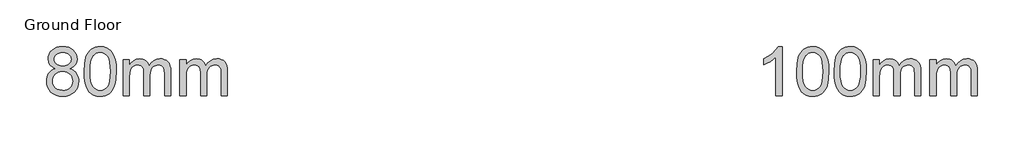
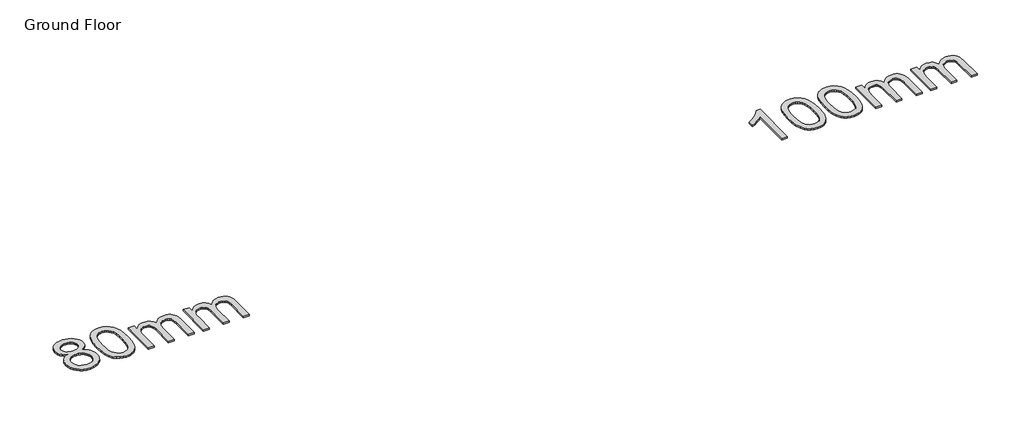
# One storey, part 12 of 14: 2 proxies.
"""IFC4 building model written with IfcOpenShell, lengths in millimetres."""

import ifcopenshell
import ifcopenshell.guid

model = None  # the IFC model being written
_history = None  # IfcOwnerHistory: only IFC2X3 demands one
_inside = {}  # id of a spatial element -> (the spatial element, [elements in it])
_under = {}  # id of a project, library or spatial element -> (it, [spatial elements below it])
_declared = {}  # id of a project -> (the project, [libraries it declares])
_typed = {}  # id of a type object -> (the type object, [elements of that type])
_made_of = {}  # id of a material, layer set ... -> (it, [elements and type objects made of it])


def new_model(schema):
    """Start an empty IFC model of exactly this schema.

    Asked for "IFC4X3", IfcOpenShell would pick the latest addendum, in which some entities
    have other attributes; the version numbers below select the first issue.
    IFC2X3 requires an IfcOwnerHistory on every rooted entity: one is made here for all.
    """
    global model, _history
    if schema == "IFC4X3":
        model = ifcopenshell.file(schema_version=(4, 3, 0, 0))
    else:
        model = ifcopenshell.file(schema=schema)
    _inside.clear()
    _under.clear()
    _declared.clear()
    _typed.clear()
    _made_of.clear()
    _history = None
    if model.schema == "IFC2X3":
        org = make("IfcOrganization", Name="unknown")
        user = make(
            "IfcPersonAndOrganization",
            ThePerson=make("IfcPerson", FamilyName="unknown"),
            TheOrganization=org,
        )
        app = make(
            "IfcApplication",
            ApplicationDeveloper=org,
            Version="unknown",
            ApplicationFullName="unknown",
            ApplicationIdentifier="unknown",
        )
        _history = make(
            "IfcOwnerHistory",
            OwningUser=user,
            OwningApplication=app,
            ChangeAction="ADDED",
            CreationDate=0,
        )
    return model


def make(cls, **values):
    """One entity of the class cls with the attributes given. An attribute that is None is left unset."""
    return model.create_entity(
        cls, **{name: value for name, value in values.items() if value is not None}
    )


def rooted(cls, **values):
    """An entity with a GlobalId (a new one), such as an element, a storey or a relation."""
    return make(cls, GlobalId=ifcopenshell.guid.new(), OwnerHistory=_history, **values)


def si_unit(unit_type, name, prefix=None):
    """IfcSIUnit, for example si_unit("LENGTHUNIT", "METRE", prefix="MILLI")."""
    return make("IfcSIUnit", UnitType=unit_type, Prefix=prefix, Name=name)


def assignment(units):
    """IfcUnitAssignment: the units of a project."""
    return None if units is None else make("IfcUnitAssignment", Units=units)


def point(xyz):
    """IfcCartesianPoint."""
    return None if xyz is None else make("IfcCartesianPoint", Coordinates=xyz)


def direction(xyz):
    """IfcDirection."""
    return None if xyz is None else make("IfcDirection", DirectionRatios=xyz)


def frame(location, z_axis=None, x_axis=None):
    """IfcAxis2Placement3D, a coordinate frame: its origin and axes. An axis left out is left unset."""
    return make(
        "IfcAxis2Placement3D",
        Location=point(location),
        Axis=direction(z_axis),
        RefDirection=direction(x_axis),
    )


def origin():
    """The frame at (0, 0, 0) with its axes left unset."""
    return frame((0.0, 0.0, 0.0))


def origin_with_axes():
    """The frame at (0, 0, 0) with the z axis (0, 0, 1) and the x axis (1, 0, 0) written out."""
    return frame((0.0, 0.0, 0.0), z_axis=(0.0, 0.0, 1.0), x_axis=(1.0, 0.0, 0.0))


def place(relative_to, where):
    """IfcLocalPlacement: puts the frame where relative to a parent placement (None: the world)."""
    return make(
        "IfcLocalPlacement", PlacementRelTo=relative_to, RelativePlacement=where
    )


def context(
    kind, dimensions, precision=None, world=None, true_north=None, identifier=None
):
    """IfcGeometricRepresentationContext, for example the 3D "Model" context."""
    return make(
        "IfcGeometricRepresentationContext",
        ContextIdentifier=identifier,
        ContextType=kind,
        CoordinateSpaceDimension=dimensions,
        Precision=precision,
        WorldCoordinateSystem=world,
        TrueNorth=true_north,
    )


def project(units=None, contexts=None):
    """IfcProject with its units and contexts."""
    return rooted(
        "IfcProject",
        Name="project",
        RepresentationContexts=contexts,
        UnitsInContext=assignment(units),
    )


def spatial(cls, under=None, at=None, **own):
    """A site, building, storey or space (cls), placed at a placement, below another one or the project."""
    s = rooted(cls, ObjectPlacement=at, **own)
    if under is not None:
        _under.setdefault(under.id(), (under, []))[1].append(s)
    return s


def polyline(points):
    """IfcPolyline through the points."""
    return make("IfcPolyline", Points=[point(p) for p in points])


def outline(outer, holes=None, kind="AREA"):
    """IfcArbitraryClosedProfileDef: a profile drawn as a closed curve; with holes, ...WithVoids."""
    if holes is None:
        return make("IfcArbitraryClosedProfileDef", ProfileType=kind, OuterCurve=outer)
    return make(
        "IfcArbitraryProfileDefWithVoids",
        ProfileType=kind,
        OuterCurve=outer,
        InnerCurves=holes,
    )


def extrude(swept, where, along, depth):
    """IfcExtrudedAreaSolid: the profile swept, set in the frame where, extruded along a direction by depth."""
    return make(
        "IfcExtrudedAreaSolid",
        SweptArea=swept,
        Position=where,
        ExtrudedDirection=direction(along),
        Depth=depth,
    )


def shape(context_of_items, identifier, shape_type, items):
    """IfcShapeRepresentation: the items that make up one representation, for example the "Body"."""
    return make(
        "IfcShapeRepresentation",
        ContextOfItems=context_of_items,
        RepresentationIdentifier=identifier,
        RepresentationType=shape_type,
        Items=items,
    )


def made_of(thing, what):
    """Note that an element or type object is made of a material, layer set ...; save() writes the relation."""
    if what is not None:
        _made_of.setdefault(what.id(), (what, []))[1].append(thing)
    return thing


def element(
    cls,
    number,
    at=None,
    inside=None,
    cuts=None,
    type_object=None,
    material=None,
    context=None,
    identifier="Body",
    shape_type=None,
    held_by="IfcProductDefinitionShape",
    body=None,
    shapes=None,
    **own,
):
    """One element of the class cls, such as IfcWall. Its Tag is "e" and its number.

    at: its placement. inside: the storey or other place that contains it. cuts: it is an
    opening in that element (IfcRelVoidsElement). A single representation is given by context,
    identifier, shape_type and body (its items); several are given by shapes. held_by: the class
    of the entity that holds the representations. save() writes the other relations.
    """
    e = rooted(cls, Tag="e%d" % number, ObjectPlacement=at, **own)
    if body is not None:
        shapes = [shape(context, identifier, shape_type, body)]
    if shapes is not None:
        e.Representation = make(held_by, Representations=shapes)
    if inside is not None:
        _inside.setdefault(inside.id(), (inside, []))[1].append(e)
    if cuts is not None:
        rooted(
            "IfcRelVoidsElement", RelatingBuildingElement=cuts, RelatedOpeningElement=e
        )
    if type_object is not None:
        _typed.setdefault(type_object.id(), (type_object, []))[1].append(e)
    return made_of(e, material)


def aggregate(whole, parts):
    """IfcRelAggregates: a whole, such as a stair, and the parts it consists of."""
    return rooted("IfcRelAggregates", RelatingObject=whole, RelatedObjects=parts)


def save(model, path):
    """Write the relations noted so far, then the file.

    IfcRelAggregates (storeys below a building ...), IfcRelContainedInSpatialStructure (elements
    in a storey), IfcRelDefinesByType, IfcRelAssociatesMaterial and IfcRelDeclares: one each for
    every whole, place, type object, material and project.
    """
    for whole, parts in _under.values():
        aggregate(whole, parts)
    for where, things in _inside.values():
        rooted(
            "IfcRelContainedInSpatialStructure",
            RelatedElements=things,
            RelatingStructure=where,
        )
    for kind, things in _typed.values():
        rooted("IfcRelDefinesByType", RelatedObjects=things, RelatingType=kind)
    for what, things in _made_of.values():
        rooted("IfcRelAssociatesMaterial", RelatedObjects=things, RelatingMaterial=what)
    for by, libraries in _declared.values():
        rooted("IfcRelDeclares", RelatingContext=by, RelatedDefinitions=libraries)
    model.write(path)


model = new_model("IFC4")

# Units and contexts
model_context = context("Model", 3, world=origin())
ifc_project = project(units=[si_unit("LENGTHUNIT", "METRE", prefix="MILLI")], contexts=[model_context])

# Site, building, storey
site = spatial("IfcSite", under=ifc_project)
building = spatial("IfcBuilding", under=site)
storey = spatial("IfcBuildingStorey", under=building, Name="Ground Floor", Elevation=0.0)

# Proxies
placement = place(None, origin())
element("IfcBuildingElementProxy", 1, Name="600mm Arial", ObjectType="600mm Arial", at=placement, inside=storey, context=model_context, shape_type="SweptSolid", body=[
    extrude(outline(polyline([(11472.4270523, -25153.6106576), (11432.0887915, -25133.7450298), (11416.4308141, -25121.1634656), (11403.780272, -25106.8160678), (11387.0600353, -25073.3755944), (11381.4866231, -25033.9754327), (11384.5216495, -25003.2480891), (11393.6267289, -24975.0775253), (11408.8018612, -24949.4637414), (11430.0470464, -24926.4067373), (11456.341412, -24907.35045), (11486.6640855, -24893.7388162), (11521.0150668, -24885.5718359), (11559.3943559, -24882.8495091), (11597.9575861, -24885.6362152), (11632.5660848, -24893.9963336), (11663.219852, -24907.9298641), (11689.9188878, -24927.4368069), (11711.5503491, -24950.9444664), (11727.0013929, -24976.8801471), (11736.2720192, -25005.2438489), (11739.362228, -25036.0355719), (11733.8623921, -25074.1665407), (11717.3628846, -25107.036797), (11704.9422688, -25121.2876258), (11689.6797645, -25133.8002121), (11650.6290907, -25153.6106576), (11675.3921475, -25164.1458782), (11697.0006162, -25177.5045931), (11715.4544968, -25193.6868024), (11730.7537893, -25212.692506), (11742.7605379, -25234.0986396), (11751.3367869, -25257.4821389), (11756.4825363, -25282.8430039), (11758.1977861, -25310.1812347), (11754.7948777, -25347.7603805), (11744.5861523, -25382.2125294), (11727.57161, -25413.5376813), (11703.7512508, -25441.7358362), (11674.3758735, -25465.0411606), (11640.6962769, -25481.6878209), (11602.7124609, -25491.675817), (11560.4244255, -25495.0051491), (11518.1363902, -25491.6620215), (11480.1525742, -25481.6326386), (11446.4729775, -25464.9170004), (11417.0976002, -25441.515107), (11393.277241, -25413.1192155), (11376.2626987, -25381.4215831), (11366.0539734, -25346.4222098), (11362.6510649, -25308.1210955), (11364.4352926, -25279.5366645), (11369.7879756, -25253.3802547), (11378.709114, -25229.651866), (11391.1987077, -25208.3514984), (11406.9808453, -25189.8654282), (11425.7796153, -25174.5799313), (11447.5950176, -25162.4950077), (11472.4270523, -25153.6106576)]), holes=[polyline([(11437.9932975, -25305.4723452), (11441.1386886, -25334.2958995), (11450.5748617, -25362.1997488), (11467.9940742, -25386.5351428), (11495.0885832, -25404.6533311), (11527.5357751, -25415.9105201), (11561.0130367, -25419.6629165), (11588.2546984, -25417.6901493), (11612.2957868, -25411.7718477), (11633.1363019, -25401.9080117), (11650.7762435, -25388.0986413), (11664.8109416, -25371.2450474), (11674.835726, -25352.2485409), (11680.8505966, -25331.1091217), (11682.8555535, -25307.8267899), (11680.7862173, -25284.1719777), (11674.5782086, -25262.6508809), (11664.2315275, -25243.2634998), (11649.7461739, -25226.0098342), (11631.6279857, -25211.8463774), (11610.3828005, -25201.7296225), (11586.0106183, -25195.6595696), (11558.5114391, -25193.6362186), (11531.6698491, -25195.6319785), (11507.9460589, -25201.6192579), (11487.3400686, -25211.5980571), (11469.8518783, -25225.5683758), (11455.9137492, -25242.5369328), (11445.9579427, -25261.5104467), (11439.9844588, -25282.4889175), (11437.9932975, -25305.4723452)]), polyline([(11456.8288557, -25036.1827247), (11458.4981202, -25053.4547844), (11463.5059139, -25069.0713751), (11471.8522366, -25083.0324968), (11483.5370885, -25095.3381495), (11498.4133167, -25105.381328), (11516.3337684, -25112.5550269), (11537.2984436, -25116.8592462), (11561.3073423, -25118.293986), (11584.7230313, -25116.8684433), (11605.2324525, -25112.5918151), (11622.835606, -25105.4641014), (11637.5324917, -25095.4853023), (11649.1207745, -25083.437167), (11657.3981194, -25070.1014447), (11662.3645264, -25055.4781353), (11664.0199953, -25039.5672391), (11662.3093441, -25023.0355419), (11657.1773902, -25007.8742052), (11648.6241339, -24994.0832289), (11636.6495749, -24981.662613), (11621.6215954, -24971.3941068), (11603.9080773, -24964.0594595), (11583.5090207, -24959.6586712), (11560.4244255, -24958.1917417), (11537.1604878, -24959.6264815), (11516.6648622, -24963.9307008), (11498.9375485, -24971.1043998), (11483.9785469, -24981.1475782), (11472.100557, -24993.1957136), (11463.6162785, -25006.3842831), (11458.5257114, -25020.7132868), (11456.8288557, -25036.1827247)])]), origin_with_axes(), (0.0, 0.0, 1.0), 20.0),
    extrude(outline(polyline([(11824.1222397, -25189.0744819), (11829.6588637, -25092.5974287), (11836.5796437, -25051.6843523), (11846.2687358, -25015.6549094), (11858.6847531, -24984.2147944), (11873.786309, -24957.0697016), (11891.5734035, -24934.2196312), (11912.0460365, -24915.6645831), (11935.273186, -24901.3079882), (11961.3238298, -24891.0532776), (11990.1979678, -24884.9004512), (12021.8956003, -24882.8495091), (12068.322308, -24887.7055514), (12109.8929735, -24902.2736785), (12144.657822, -24925.983673), (12170.6670791, -24958.2653181), (12190.3119776, -24998.8427022), (12205.9837506, -25047.4399138), (12216.2476583, -25109.1521184), (12219.6689609, -25189.0744819), (12214.1875191, -25284.9997121), (12207.335717, -25325.7748328), (12197.743194, -25361.7582904), (12185.4237456, -25393.212201), (12170.3911676, -25420.3986805), (12152.6454599, -25443.3177288), (12132.1866224, -25461.9693459), (12108.9318818, -25476.4225098), (12082.7984646, -25486.7461983), (12053.7863707, -25492.9404114), (12021.8956003, -25495.0051491), (11980.3985112, -25491.4182996), (11943.6103117, -25480.6577513), (11911.5310017, -25462.723504), (11884.1605813, -25437.6155578), (11857.8938068, -25392.2281167), (11839.1318251, -25335.675457), (11827.874636, -25267.9575787), (11824.1222397, -25189.0744819)]), holes=[polyline([(11899.4644723, -25188.9273291), (11901.6717642, -25254.4241198), (11908.2936401, -25307.4405138), (11919.3301, -25347.9765112), (11934.7811438, -25376.0321118), (11953.4695492, -25395.1205889), (11974.2180937, -25408.7552153), (11997.0267774, -25416.9359912), (12021.8956003, -25419.6629165), (12046.7644231, -25416.9267941), (12069.5731068, -25408.7184271), (12090.3216514, -25395.0378154), (12109.0100567, -25375.884959), (12124.4611005, -25347.7833731), (12135.4975604, -25307.2565728), (12142.1194363, -25254.3045582), (12144.3267283, -25188.9273291), (12142.1930127, -25125.1641823), (12135.791866, -25073.0812888), (12125.1232881, -25032.6786487), (12110.1872791, -25003.9562619), (12091.8115734, -24983.9342843), (12070.8239056, -24969.6328718), (12047.2242756, -24961.0520242), (12021.0126835, -24958.1917417), (11996.2726193, -24960.7117334), (11973.8502117, -24968.2717084), (11953.7454607, -24980.8716667), (11935.9583662, -24998.5116084), (11919.9922876, -25029.781578), (11908.5879457, -25071.9408546), (11901.7453406, -25124.9894383), (11899.4644723, -25188.9273291)])]), origin_with_axes(), (0.0, 0.0, 1.0), 20.0),
    extrude(outline(polyline([(12304.4289726, -25485.58737), (12304.4289726, -25042.9517534), (12379.7712052, -25042.9517534), (12379.7712052, -25115.7923885), (12402.4327361, -25082.333521), (12431.5689901, -25056.1219288), (12466.1866858, -25039.180963), (12505.2925419, -25033.5339743), (12547.1943012, -25039.2913276), (12565.0273809, -25046.4880191), (12580.7819273, -25056.5633872), (12605.8714794, -25084.2097192), (12622.2790164, -25121.0898892), (12649.7414073, -25082.7841764), (12681.0665592, -25055.422953), (12716.2544721, -25039.006219), (12755.3051458, -25033.5339743), (12785.4668709, -25035.8102442), (12811.940579, -25042.6390537), (12834.7262701, -25054.0204029), (12853.8239442, -25069.9542919), (12868.9209015, -25090.6246615), (12879.7044425, -25116.2154528), (12886.1745671, -25146.7266657), (12888.3312753, -25182.1583004), (12888.3312753, -25485.58737), (12812.9890427, -25485.58737), (12812.9890427, -25214.531916), (12811.2416032, -25176.9527702), (12805.9992848, -25151.6240948), (12796.1768355, -25134.2784587), (12780.6890035, -25120.6484308), (12760.7681935, -25111.8192629), (12737.6468101, -25108.8762069), (12716.2958588, -25110.7616022), (12696.8303027, -25116.4177879), (12679.2501419, -25125.844764), (12663.5553762, -25139.0425306), (12650.6473167, -25156.3973637), (12641.4272742, -25178.2955394), (12635.8952487, -25204.7370578), (12634.0512402, -25235.7219189), (12634.0512402, -25485.58737), (12558.7090076, -25485.58737), (12558.7090076, -25206.1442065), (12554.349606, -25163.5434714), (12548.9003539, -25146.8232348), (12541.271401, -25133.1564186), (12531.1592447, -25122.533826), (12518.2603822, -25114.9462599), (12502.5748137, -25110.3937202), (12484.102539, -25108.8762069), (12455.0766496, -25112.9229089), (12428.3316285, -25125.0630147), (12406.2587088, -25145.0022189), (12391.2491234, -25172.4462157), (12382.6406847, -25210.5220022), (12379.7712052, -25262.3565753), (12379.7712052, -25485.58737), (12304.4289726, -25485.58737)])), origin_with_axes(), (0.0, 0.0, 1.0), 20.0),
    extrude(outline(polyline([(13001.3446242, -25485.58737), (13001.3446242, -25042.9517534), (13076.6868568, -25042.9517534), (13076.6868568, -25115.7923885), (13099.3483877, -25082.333521), (13128.4846417, -25056.1219288), (13163.1023375, -25039.180963), (13202.2081936, -25033.5339743), (13244.1099528, -25039.2913276), (13261.9430325, -25046.4880191), (13277.697579, -25056.5633872), (13302.7871311, -25084.2097192), (13319.194668, -25121.0898892), (13346.657059, -25082.7841764), (13377.9822109, -25055.422953), (13413.1701237, -25039.006219), (13452.2207975, -25033.5339743), (13482.3825226, -25035.8102442), (13508.8562307, -25042.6390537), (13531.6419217, -25054.0204029), (13550.7395958, -25069.9542919), (13565.8365532, -25090.6246615), (13576.6200942, -25116.2154528), (13583.0902188, -25146.7266657), (13585.246927, -25182.1583004), (13585.246927, -25485.58737), (13509.9046943, -25485.58737), (13509.9046943, -25214.531916), (13508.1572549, -25176.9527702), (13502.9149364, -25151.6240948), (13493.0924872, -25134.2784587), (13477.6046552, -25120.6484308), (13457.6838451, -25111.8192629), (13434.5624617, -25108.8762069), (13413.2115104, -25110.7616022), (13393.7459544, -25116.4177879), (13376.1657935, -25125.844764), (13360.4710279, -25139.0425306), (13347.5629684, -25156.3973637), (13338.3429259, -25178.2955394), (13332.8109004, -25204.7370578), (13330.9668919, -25235.7219189), (13330.9668919, -25485.58737), (13255.6246593, -25485.58737), (13255.6246593, -25206.1442065), (13251.2652576, -25163.5434714), (13245.8160056, -25146.8232348), (13238.1870527, -25133.1564186), (13228.0748964, -25122.533826), (13215.1760339, -25114.9462599), (13199.4904653, -25110.3937202), (13181.0181907, -25108.8762069), (13151.9923012, -25112.9229089), (13125.2472802, -25125.0630147), (13103.1743605, -25145.0022189), (13088.1647751, -25172.4462157), (13079.5563364, -25210.5220022), (13076.6868568, -25262.3565753), (13076.6868568, -25485.58737), (13001.3446242, -25485.58737)])), origin_with_axes(), (0.0, 0.0, 1.0), 20.0),
])
element("IfcBuildingElementProxy", 2, Name="600mm Arial", ObjectType="600mm Arial", at=placement, inside=storey, context=model_context, shape_type="SweptSolid", body=[
    extrude(outline(polyline([(20401.7887855, -25485.58737), (20326.4465529, -25485.58737), (20326.4465529, -25015.8756386), (20294.9926423, -25041.3146785), (20255.0774458, -25066.7169303), (20213.1756866, -25088.9186087), (20175.7620877, -25104.7559286), (20175.7620877, -25033.5339743), (20234.9359066, -25001.3442998), (20286.2002626, -24963.0477841), (20326.6120998, -24922.3232472), (20353.2283621, -24882.8495091), (20401.7887855, -24882.8495091), (20401.7887855, -25485.58737)])), origin_with_axes(), (0.0, 0.0, 1.0), 20.0),
    extrude(outline(polyline([(20580.726588, -25189.0744819), (20586.263212, -25092.5974287), (20593.183992, -25051.6843523), (20602.8730841, -25015.6549094), (20615.2891014, -24984.2147944), (20630.3906573, -24957.0697016), (20648.1777518, -24934.2196312), (20668.6503848, -24915.6645831), (20691.8775343, -24901.3079882), (20717.9281781, -24891.0532776), (20746.8023162, -24884.9004512), (20778.4999486, -24882.8495091), (20824.9266564, -24887.7055514), (20866.4973218, -24902.2736785), (20901.2621704, -24925.983673), (20927.2714274, -24958.2653181), (20946.916326, -24998.8427022), (20962.588099, -25047.4399138), (20972.8520066, -25109.1521184), (20976.2733092, -25189.0744819), (20970.7918674, -25284.9997121), (20963.9400653, -25325.7748328), (20954.3475423, -25361.7582904), (20942.0280939, -25393.212201), (20926.9955159, -25420.3986805), (20909.2498082, -25443.3177288), (20888.7909707, -25461.9693459), (20865.5362301, -25476.4225098), (20839.4028129, -25486.7461983), (20810.390719, -25492.9404114), (20778.4999486, -25495.0051491), (20737.0028595, -25491.4182996), (20700.21466, -25480.6577513), (20668.13535, -25462.723504), (20640.7649296, -25437.6155578), (20614.4981551, -25392.2281167), (20595.7361734, -25335.675457), (20584.4789843, -25267.9575787), (20580.726588, -25189.0744819)]), holes=[polyline([(20656.0688206, -25188.9273291), (20658.2761125, -25254.4241198), (20664.8979885, -25307.4405138), (20675.9344483, -25347.9765112), (20691.3854921, -25376.0321118), (20710.0738975, -25395.1205889), (20730.822442, -25408.7552153), (20753.6311257, -25416.9359912), (20778.4999486, -25419.6629165), (20803.3687714, -25416.9267941), (20826.1774551, -25408.7184271), (20846.9259997, -25395.0378154), (20865.614405, -25375.884959), (20881.0654488, -25347.7833731), (20892.1019087, -25307.2565728), (20898.7237846, -25254.3045582), (20900.9310766, -25188.9273291), (20898.797361, -25125.1641823), (20892.3962143, -25073.0812888), (20881.7276364, -25032.6786487), (20866.7916274, -25003.9562619), (20848.4159217, -24983.9342843), (20827.4282539, -24969.6328718), (20803.8286239, -24961.0520242), (20777.6170318, -24958.1917417), (20752.8769676, -24960.7117334), (20730.45456, -24968.2717084), (20710.349809, -24980.8716667), (20692.5627145, -24998.5116084), (20676.5966359, -25029.781578), (20665.1922941, -25071.9408546), (20658.3496889, -25124.9894383), (20656.0688206, -25188.9273291)])]), origin_with_axes(), (0.0, 0.0, 1.0), 20.0),
    extrude(outline(polyline([(21042.1977627, -25189.0744819), (21047.7343867, -25092.5974287), (21054.6551668, -25051.6843523), (21064.3442588, -25015.6549094), (21076.7602762, -24984.2147944), (21091.8618321, -24957.0697016), (21109.6489265, -24934.2196312), (21130.1215596, -24915.6645831), (21153.348709, -24901.3079882), (21179.3993528, -24891.0532776), (21208.2734909, -24884.9004512), (21239.9711233, -24882.8495091), (21286.3978311, -24887.7055514), (21327.9684966, -24902.2736785), (21362.7333451, -24925.983673), (21388.7426022, -24958.2653181), (21408.3875007, -24998.8427022), (21424.0592737, -25047.4399138), (21434.3231814, -25109.1521184), (21437.7444839, -25189.0744819), (21432.2630422, -25284.9997121), (21425.41124, -25325.7748328), (21415.818717, -25361.7582904), (21403.4992687, -25393.212201), (21388.4666907, -25420.3986805), (21370.7209829, -25443.3177288), (21350.2621455, -25461.9693459), (21327.0074048, -25476.4225098), (21300.8739876, -25486.7461983), (21271.8618938, -25492.9404114), (21239.9711233, -25495.0051491), (21198.4740343, -25491.4182996), (21161.6858347, -25480.6577513), (21129.6065248, -25462.723504), (21102.2361043, -25437.6155578), (21075.9693299, -25392.2281167), (21057.2073481, -25335.675457), (21045.9501591, -25267.9575787), (21042.1977627, -25189.0744819)]), holes=[polyline([(21117.5399953, -25188.9273291), (21119.7472873, -25254.4241198), (21126.3691632, -25307.4405138), (21137.4056231, -25347.9765112), (21152.8566669, -25376.0321118), (21171.5450722, -25395.1205889), (21192.2936167, -25408.7552153), (21215.1023004, -25416.9359912), (21239.9711233, -25419.6629165), (21264.8399462, -25416.9267941), (21287.6486299, -25408.7184271), (21308.3971744, -25395.0378154), (21327.0855798, -25375.884959), (21342.5366236, -25347.7833731), (21353.5730834, -25307.2565728), (21360.1949593, -25254.3045582), (21362.4022513, -25188.9273291), (21360.2685357, -25125.1641823), (21353.867389, -25073.0812888), (21343.1988112, -25032.6786487), (21328.2628022, -25003.9562619), (21309.8870965, -24983.9342843), (21288.8994287, -24969.6328718), (21265.2997987, -24961.0520242), (21239.0882065, -24958.1917417), (21214.3481424, -24960.7117334), (21191.9257347, -24968.2717084), (21171.8209837, -24980.8716667), (21154.0338892, -24998.5116084), (21138.0678107, -25029.781578), (21126.6634688, -25071.9408546), (21119.8208637, -25124.9894383), (21117.5399953, -25188.9273291)])]), origin_with_axes(), (0.0, 0.0, 1.0), 20.0),
    extrude(outline(polyline([(21522.5044956, -25485.58737), (21522.5044956, -25042.9517534), (21597.8467282, -25042.9517534), (21597.8467282, -25115.7923885), (21620.5082591, -25082.333521), (21649.6445131, -25056.1219288), (21684.2622089, -25039.180963), (21723.368065, -25033.5339743), (21765.2698242, -25039.2913276), (21783.1029039, -25046.4880191), (21798.8574504, -25056.5633872), (21823.9470025, -25084.2097192), (21840.3545394, -25121.0898892), (21867.8169304, -25082.7841764), (21899.1420823, -25055.422953), (21934.3299951, -25039.006219), (21973.3806689, -25033.5339743), (22003.542394, -25035.8102442), (22030.0161021, -25042.6390537), (22052.8017931, -25054.0204029), (22071.8994672, -25069.9542919), (22086.9964246, -25090.6246615), (22097.7799656, -25116.2154528), (22104.2500902, -25146.7266657), (22106.4067984, -25182.1583004), (22106.4067984, -25485.58737), (22031.0645657, -25485.58737), (22031.0645657, -25214.531916), (22029.3171263, -25176.9527702), (22024.0748078, -25151.6240948), (22014.2523586, -25134.2784587), (21998.7645266, -25120.6484308), (21978.8437165, -25111.8192629), (21955.7223331, -25108.8762069), (21934.3713818, -25110.7616022), (21914.9058258, -25116.4177879), (21897.3256649, -25125.844764), (21881.6308993, -25139.0425306), (21868.7228398, -25156.3973637), (21859.5027973, -25178.2955394), (21853.9707718, -25204.7370578), (21852.1267633, -25235.7219189), (21852.1267633, -25485.58737), (21776.7845307, -25485.58737), (21776.7845307, -25206.1442065), (21772.425129, -25163.5434714), (21766.975877, -25146.8232348), (21759.3469241, -25133.1564186), (21749.2347678, -25122.533826), (21736.3359053, -25114.9462599), (21720.6503367, -25110.3937202), (21702.1780621, -25108.8762069), (21673.1521726, -25112.9229089), (21646.4071516, -25125.0630147), (21624.3342319, -25145.0022189), (21609.3246465, -25172.4462157), (21600.7162078, -25210.5220022), (21597.8467282, -25262.3565753), (21597.8467282, -25485.58737), (21522.5044956, -25485.58737)])), origin_with_axes(), (0.0, 0.0, 1.0), 20.0),
    extrude(outline(polyline([(22219.4201473, -25485.58737), (22219.4201473, -25042.9517534), (22294.7623799, -25042.9517534), (22294.7623799, -25115.7923885), (22317.4239108, -25082.333521), (22346.5601648, -25056.1219288), (22381.1778606, -25039.180963), (22420.2837166, -25033.5339743), (22462.1854759, -25039.2913276), (22480.0185556, -25046.4880191), (22495.7731021, -25056.5633872), (22520.8626541, -25084.2097192), (22537.2701911, -25121.0898892), (22564.732582, -25082.7841764), (22596.0577339, -25055.422953), (22631.2456468, -25039.006219), (22670.2963206, -25033.5339743), (22700.4580456, -25035.8102442), (22726.9317537, -25042.6390537), (22749.7174448, -25054.0204029), (22768.8151189, -25069.9542919), (22783.9120762, -25090.6246615), (22794.6956172, -25116.2154528), (22801.1657418, -25146.7266657), (22803.32245, -25182.1583004), (22803.32245, -25485.58737), (22727.9802174, -25485.58737), (22727.9802174, -25214.531916), (22726.2327779, -25176.9527702), (22720.9904595, -25151.6240948), (22711.1680102, -25134.2784587), (22695.6801782, -25120.6484308), (22675.7593682, -25111.8192629), (22652.6379848, -25108.8762069), (22631.2870335, -25110.7616022), (22611.8214774, -25116.4177879), (22594.2413166, -25125.844764), (22578.546551, -25139.0425306), (22565.6384915, -25156.3973637), (22556.418449, -25178.2955394), (22550.8864235, -25204.7370578), (22549.042415, -25235.7219189), (22549.042415, -25485.58737), (22473.7001823, -25485.58737), (22473.7001823, -25206.1442065), (22469.3407807, -25163.5434714), (22463.8915286, -25146.8232348), (22456.2625758, -25133.1564186), (22446.1504194, -25122.533826), (22433.251557, -25114.9462599), (22417.5659884, -25110.3937202), (22399.0937137, -25108.8762069), (22370.0678243, -25112.9229089), (22343.3228033, -25125.0630147), (22321.2498835, -25145.0022189), (22306.2402981, -25172.4462157), (22297.6318594, -25210.5220022), (22294.7623799, -25262.3565753), (22294.7623799, -25485.58737), (22219.4201473, -25485.58737)])), origin_with_axes(), (0.0, 0.0, 1.0), 20.0),
])

save(model, "model.ifc")
